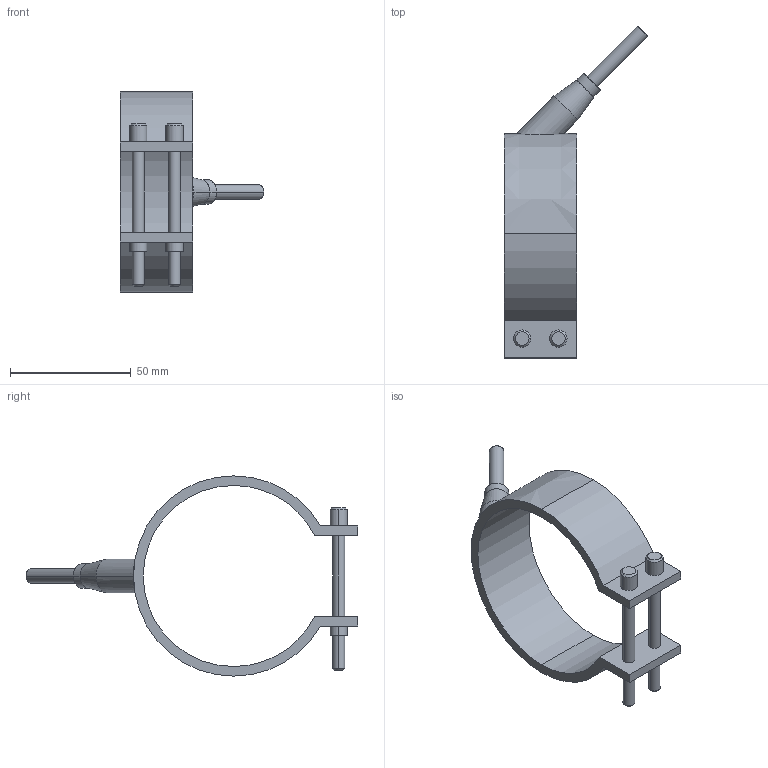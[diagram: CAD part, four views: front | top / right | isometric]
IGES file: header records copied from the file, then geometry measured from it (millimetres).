
Start section: START RECORD GO HERE.
Global section: file name: 29075030.igs; native system: DASSAULT SYSTEMES CATIA V5 R20 - www.3ds.com; preprocessor: CATIA Version 5 Release 20 ; author: Utente; organization: NB04-ASUS; date: 20210329.201625; units: millimetre
Bounding box: 59.55 x 137.55 x 83 mm (x, y, z)
Surface area: 20299.8 mm2 (no closed solid volume)
Topology: 0 solids, 0 shells, 54 faces, 250 edges, 250 vertices
Faces by surface type: revolution 38, plane 16
